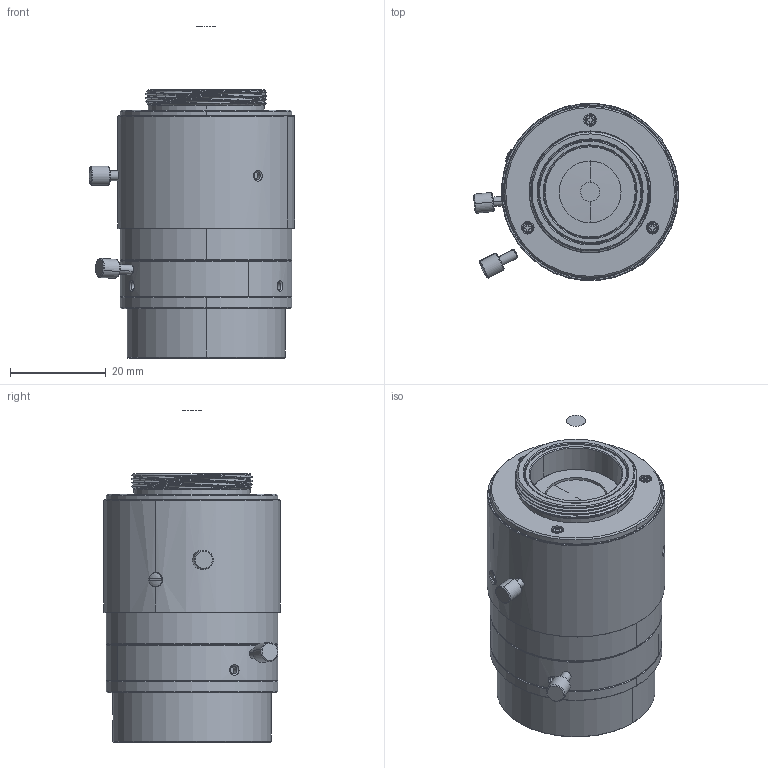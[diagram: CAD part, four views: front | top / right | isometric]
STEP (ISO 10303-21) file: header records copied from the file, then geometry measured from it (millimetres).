
FILE_DESCRIPTION((''),'2;1');
FILE_NAME('IVA0650-ZP_ASM','2020-07-29T',('sirtec'),(''),'CREO PARAMETRIC BY PTC INC, 2014190','CREO PARAMETRIC BY PTC INC, 2014190','');
FILE_SCHEMA(('CONFIG_CONTROL_DESIGN'));
Products named in the file (25): IVA0650-101; IVA0650-604_ASM; IVA0650-101-ZP_ASM; IVA0650-102; IVA0650-112; PHX-16-406; PHX-16-405; IVA0650-G7; IVA0650-112-ZP_ASM; IVA0650-103; IVA0650-XM; IVA0650-111; IVA0650-G1; IVA0650-301; IVA0650-111-ZP_ASM; IVA0650-104; IVA0650-105; IVA0650-107; PHX-16-404; IVA0605-107-ZP_ASM; IVA0650-106; PHX-16-502; PV16-504; PHX-16-501; IVA0650-ZP_ASM
Assembly tree (31 placements, depth 3):
  IVA0650-ZP_ASM
    IVA0650-101-ZP_ASM
      IVA0650-101
      IVA0650-604_ASM
    IVA0650-102
    IVA0650-112-ZP_ASM
      IVA0650-112
      PHX-16-406  x3
      PHX-16-405  x3
      IVA0650-G7
    IVA0650-103
    IVA0650-XM
    IVA0650-111-ZP_ASM
      IVA0650-111
      IVA0650-G1
      IVA0650-301
    IVA0650-104
    IVA0650-105
    IVA0605-107-ZP_ASM
      IVA0650-107
      PHX-16-404
    IVA0650-106
    PHX-16-502  x3
    PV16-504
    PHX-16-501  x2
Bounding box: 42.79 x 36.9 x 69.24 mm (x, y, z)
Volume: 30142.7 mm3; surface area: 40844.3 mm2
Topology: 26 solids, 26 shells, 1039 faces, 2540 edges, 1576 vertices
Faces by surface type: cylinder 393, cone 254, plane 204, bspline 172, sphere 10, torus 6
Entity records: 55453 total; most frequent: CARTESIAN_POINT 34551, ORIENTED_EDGE 4444, DIRECTION 3929, EDGE_CURVE 2222, AXIS2_PLACEMENT_3D 1551, VERTEX_POINT 1390, EDGE_LOOP 1032, FACE_OUTER_BOUND 902
